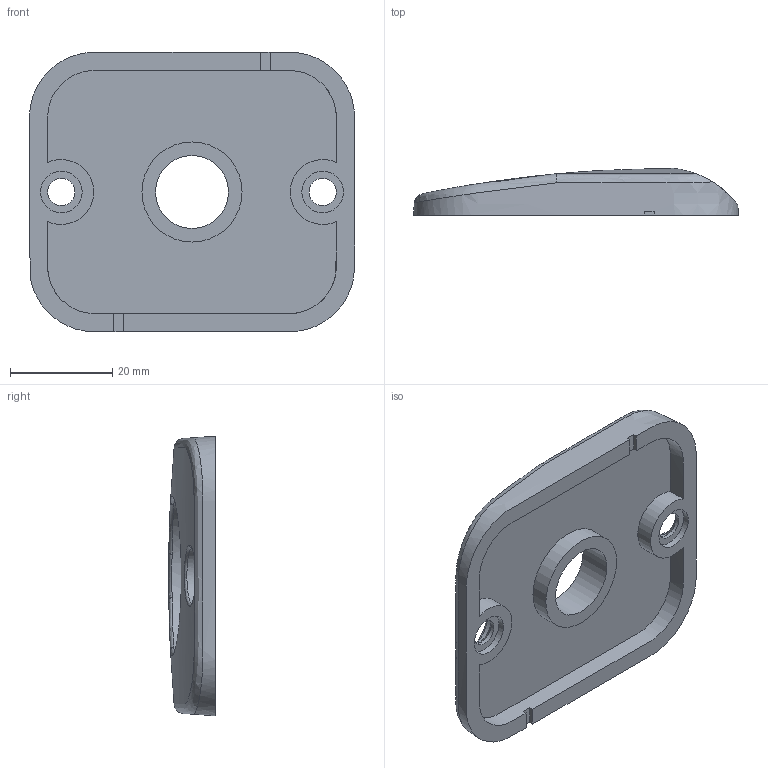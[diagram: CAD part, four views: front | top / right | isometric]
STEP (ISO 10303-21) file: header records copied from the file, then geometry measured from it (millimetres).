
FILE_DESCRIPTION(/* description */ (''),/* implementation_level */ '2;1');
FILE_NAME(/* name */ 'Sight Cap Original.step',/* time_stamp */ '2024-05-11T16:50:05-05:00',/* author */ (''),/* organization */ (''),/* preprocessor_version */ 'ST-DEVELOPER v20',/* originating_system */ 'Autodesk Translation Framework v12.20.1.177',/* authorisation */ '');
FILE_SCHEMA (('AUTOMOTIVE_DESIGN { 1 0 10303 214 3 1 1 }'));
Length unit declared in the file: inch
Products named in the file (1): og
Bounding box: 63.5 x 9.14 x 54.61 mm (x, y, z)
Volume: 12937.4 mm3; surface area: 9036.2 mm2
Topology: 1 solids, 1 shells, 48 faces, 122 edges, 81 vertices
Faces by surface type: plane 17, cylinder 16, bspline 13, cone 2
Full cylindrical faces by diameter (mm): 5.334 x2, 8.128 x2, 14.224 x1, 19.558 x1
Entity records: 3321 total; most frequent: CARTESIAN_POINT 2258, ORIENTED_EDGE 244, DIRECTION 149, EDGE_CURVE 122, VERTEX_POINT 81, B_SPLINE_CURVE_WITH_KNOTS 66, EDGE_LOOP 59, AXIS2_PLACEMENT_3D 57
